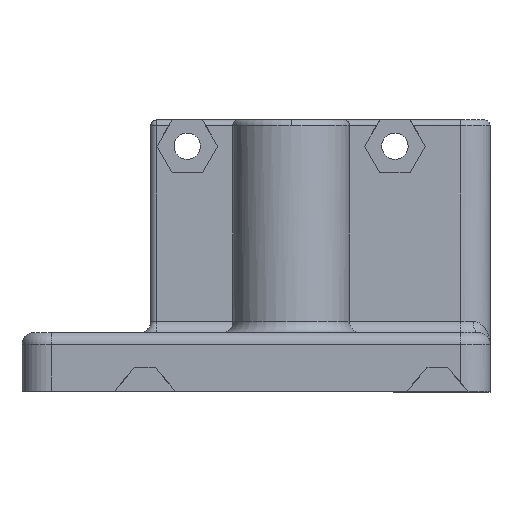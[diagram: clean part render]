
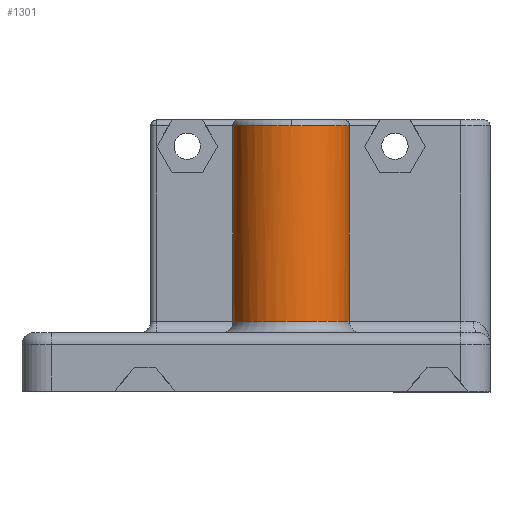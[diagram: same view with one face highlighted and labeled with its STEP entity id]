
A CAD part, top view. The second image highlights one B-rep face of the part: STEP entity #1301.
In plain terms, the highlighted cylindrical face has radius 10 mm (diameter 20 mm), a partial arc.
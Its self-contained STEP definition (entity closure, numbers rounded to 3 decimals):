
#454 = DIRECTION ( 'NONE',  ( 0., 0., -1. ) ) ;
#462 = DIRECTION ( 'NONE',  ( 0., -1., 0. ) ) ;
#463 = CARTESIAN_POINT ( 'NONE',  ( 0., 46.45, 0. ) ) ;
#605 = AXIS2_PLACEMENT_3D ( 'NONE', #463, #462, #454 ) ;
#680 = AXIS2_PLACEMENT_3D ( 'NONE', #3241, #3242, #3243 ) ;
#683 = AXIS2_PLACEMENT_3D ( 'NONE', #2806, #2807, #2808 ) ;
#710 = AXIS2_PLACEMENT_3D ( 'NONE', #1978, #1979, #1980 ) ;
#861 = CIRCLE ( 'NONE', #683, 10. ) ;
#867 = LINE ( 'NONE', #2804, #871 ) ;
#871 = VECTOR ( 'NONE', #2805, 1000. ) ;
#967 = CIRCLE ( 'NONE', #680, 10. ) ;
#1301 = ADVANCED_FACE ( 'NONE', ( #1433 ), #1382, .T. ) ;
#1382 = CYLINDRICAL_SURFACE ( 'NONE', #605, 10. ) ;
#1433 = FACE_OUTER_BOUND ( 'NONE', #2472, .T. ) ;
#1786 = ORIENTED_EDGE ( 'NONE', *, *, #4663, .T. ) ;
#1787 = ORIENTED_EDGE ( 'NONE', *, *, #4141, .T. ) ;
#1788 = ORIENTED_EDGE ( 'NONE', *, *, #4143, .T. ) ;
#1789 = ORIENTED_EDGE ( 'NONE', *, *, #4114, .T. ) ;
#1790 = ORIENTED_EDGE ( 'NONE', *, *, #4049, .T. ) ;
#1978 = CARTESIAN_POINT ( 'NONE',  ( 0., 45.45, 0. ) ) ;
#1979 = DIRECTION ( 'NONE',  ( 0., -1., 0. ) ) ;
#1980 = DIRECTION ( 'NONE',  ( 0., 0., 1. ) ) ;
#2222 = VECTOR ( 'NONE', #3082, 1000. ) ;
#2225 = LINE ( 'NONE', #3076, #2222 ) ;
#2310 = VERTEX_POINT ( 'NONE', #2976 ) ;
#2364 = VERTEX_POINT ( 'NONE', #3030 ) ;
#2374 = VERTEX_POINT ( 'NONE', #3040 ) ;
#2404 = VERTEX_POINT ( 'NONE', #4182 ) ;
#2406 = VERTEX_POINT ( 'NONE', #4184 ) ;
#2472 = EDGE_LOOP ( 'NONE', ( #1790, #1789, #1788, #1787, #1786 ) ) ;
#2560 = CIRCLE ( 'NONE', #710, 10. ) ;
#2804 = CARTESIAN_POINT ( 'NONE',  ( 4.167, 46.45, -9.091 ) ) ;
#2805 = DIRECTION ( 'NONE',  ( 0., 1., 0. ) ) ;
#2806 = CARTESIAN_POINT ( 'NONE',  ( 0., 45.45, 0. ) ) ;
#2807 = DIRECTION ( 'NONE',  ( 0., -1., 0. ) ) ;
#2808 = DIRECTION ( 'NONE',  ( 0., 0., 1. ) ) ;
#2976 = CARTESIAN_POINT ( 'NONE',  ( 0., 45.45, 10. ) ) ;
#3030 = CARTESIAN_POINT ( 'NONE',  ( -4.167, 45.45, -9.091 ) ) ;
#3040 = CARTESIAN_POINT ( 'NONE',  ( -4.167, 12., -9.091 ) ) ;
#3076 = CARTESIAN_POINT ( 'NONE',  ( -4.167, 46.45, -9.091 ) ) ;
#3082 = DIRECTION ( 'NONE',  ( 0., -1., 0. ) ) ;
#3241 = CARTESIAN_POINT ( 'NONE',  ( 0., 12., 0. ) ) ;
#3242 = DIRECTION ( 'NONE',  ( 0., 1., 0. ) ) ;
#3243 = DIRECTION ( 'NONE',  ( 0., 0., -1. ) ) ;
#4049 = EDGE_CURVE ( 'NONE', #2364, #2374, #2225, .T. ) ;
#4114 = EDGE_CURVE ( 'NONE', #2374, #2406, #967, .T. ) ;
#4141 = EDGE_CURVE ( 'NONE', #2404, #2310, #861, .T. ) ;
#4143 = EDGE_CURVE ( 'NONE', #2406, #2404, #867, .T. ) ;
#4182 = CARTESIAN_POINT ( 'NONE',  ( 4.167, 45.45, -9.091 ) ) ;
#4184 = CARTESIAN_POINT ( 'NONE',  ( 4.167, 12., -9.091 ) ) ;
#4663 = EDGE_CURVE ( 'NONE', #2310, #2364, #2560, .T. ) ;
